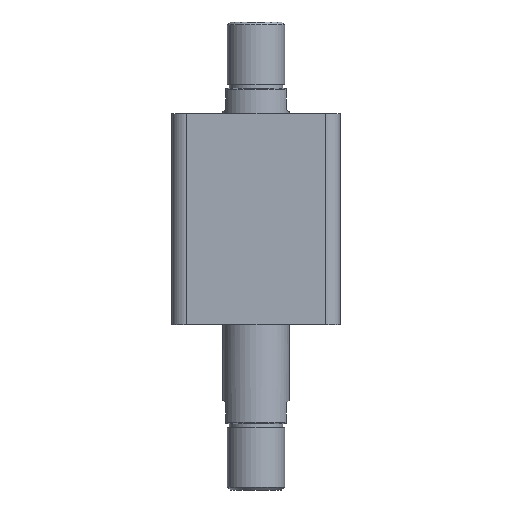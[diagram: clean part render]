
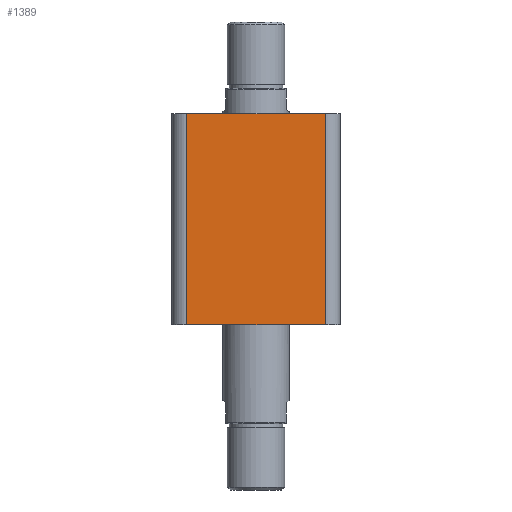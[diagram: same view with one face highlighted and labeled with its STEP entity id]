
A CAD part, front view. The second image highlights one B-rep face of the part: STEP entity #1389.
In plain terms, the highlighted planar face has unit normal (0, -1, 0).
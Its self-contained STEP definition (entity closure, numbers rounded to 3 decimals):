
#823 = VERTEX_POINT ( 'NONE', #1816 ) ;
#831 = VERTEX_POINT ( 'NONE', #1808 ) ;
#834 = VERTEX_POINT ( 'NONE', #1805 ) ;
#835 = VERTEX_POINT ( 'NONE', #1804 ) ;
#1012 = ORIENTED_EDGE ( 'NONE', *, *, #1467, .T. ) ;
#1013 = ORIENTED_EDGE ( 'NONE', *, *, #1468, .T. ) ;
#1014 = ORIENTED_EDGE ( 'NONE', *, *, #1469, .F. ) ;
#1015 = ORIENTED_EDGE ( 'NONE', *, *, #1470, .T. ) ;
#1064 = AXIS2_PLACEMENT_3D ( 'NONE', #2454, #2458, #2459 ) ;
#1389 = ADVANCED_FACE ( 'NONE', ( #1873 ), #2456, .F. ) ;
#1467 = EDGE_CURVE ( 'NONE', #823, #831, #2006, .T. ) ;
#1468 = EDGE_CURVE ( 'NONE', #831, #835, #2000, .T. ) ;
#1469 = EDGE_CURVE ( 'NONE', #834, #835, #2010, .T. ) ;
#1470 = EDGE_CURVE ( 'NONE', #834, #823, #2012, .T. ) ;
#1804 = CARTESIAN_POINT ( 'NONE',  ( 47., -57., 143. ) ) ;
#1805 = CARTESIAN_POINT ( 'NONE',  ( -47., -57., 143. ) ) ;
#1808 = CARTESIAN_POINT ( 'NONE',  ( 47., -57., 0. ) ) ;
#1816 = CARTESIAN_POINT ( 'NONE',  ( -47., -57., 0. ) ) ;
#1873 = FACE_OUTER_BOUND ( 'NONE', #3225, .T. ) ;
#2000 = LINE ( 'NONE', #2657, #2011 ) ;
#2006 = LINE ( 'NONE', #2679, #2009 ) ;
#2009 = VECTOR ( 'NONE', #2681, 1000. ) ;
#2010 = LINE ( 'NONE', #2684, #2013 ) ;
#2011 = VECTOR ( 'NONE', #2682, 1000. ) ;
#2012 = LINE ( 'NONE', #2687, #2015 ) ;
#2013 = VECTOR ( 'NONE', #2686, 1000. ) ;
#2015 = VECTOR ( 'NONE', #2688, 1000. ) ;
#2454 = CARTESIAN_POINT ( 'NONE',  ( -57., -57., 143. ) ) ;
#2456 = PLANE ( 'NONE',  #1064 ) ;
#2458 = DIRECTION ( 'NONE',  ( 0., 1., 0. ) ) ;
#2459 = DIRECTION ( 'NONE',  ( 0., 0., 1. ) ) ;
#2657 = CARTESIAN_POINT ( 'NONE',  ( 47., -57., 143. ) ) ;
#2679 = CARTESIAN_POINT ( 'NONE',  ( -57., -57., 0. ) ) ;
#2681 = DIRECTION ( 'NONE',  ( 1., 0., 0. ) ) ;
#2682 = DIRECTION ( 'NONE',  ( 0., 0., 1. ) ) ;
#2684 = CARTESIAN_POINT ( 'NONE',  ( -57., -57., 143. ) ) ;
#2686 = DIRECTION ( 'NONE',  ( 1., 0., 0. ) ) ;
#2687 = CARTESIAN_POINT ( 'NONE',  ( -47., -57., 143. ) ) ;
#2688 = DIRECTION ( 'NONE',  ( 0., 0., -1. ) ) ;
#3225 = EDGE_LOOP ( 'NONE', ( #1012, #1013, #1014, #1015 ) ) ;
